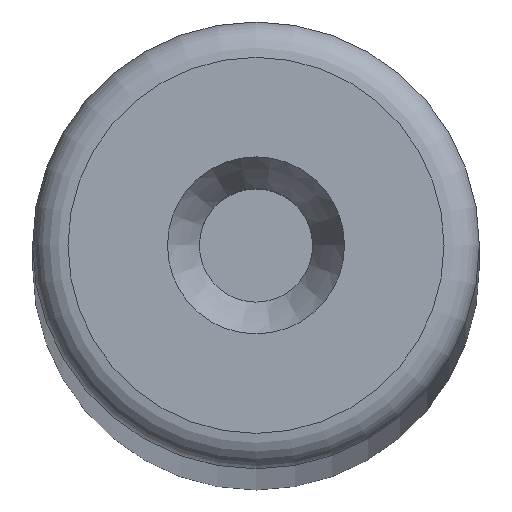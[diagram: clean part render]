
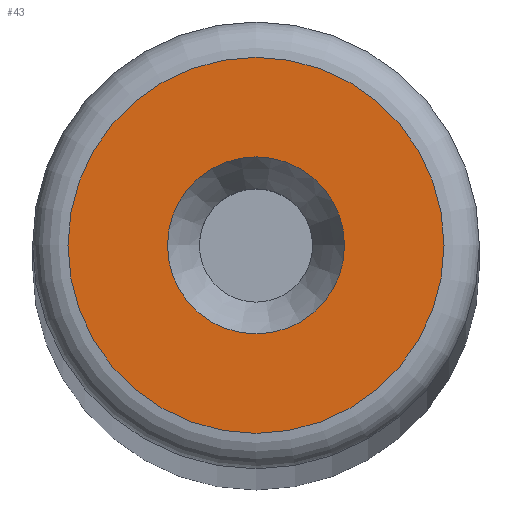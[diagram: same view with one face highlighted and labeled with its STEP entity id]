
A CAD part, top view. The second image highlights one B-rep face of the part: STEP entity #43.
In plain terms, the highlighted planar face has unit normal (0, 0, 1).
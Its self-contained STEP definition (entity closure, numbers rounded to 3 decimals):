
#43=ADVANCED_FACE('',(#58,#59),#54,.T.);
#54=PLANE('',#149);
#58=FACE_BOUND('',#76,.T.);
#59=FACE_BOUND('',#77,.T.);
#76=EDGE_LOOP('',(#96));
#77=EDGE_LOOP('',(#97));
#96=ORIENTED_EDGE('',*,*,#126,.T.);
#97=ORIENTED_EDGE('',*,*,#127,.F.);
#116=VERTEX_POINT('',#214);
#117=VERTEX_POINT('',#216);
#126=EDGE_CURVE('',#116,#116,#136,.T.);
#127=EDGE_CURVE('',#117,#117,#137,.T.);
#136=CIRCLE('',#147,2.655);
#137=CIRCLE('',#148,1.25);
#147=AXIS2_PLACEMENT_3D('',#213,#170,#171);
#148=AXIS2_PLACEMENT_3D('',#215,#172,#173);
#149=AXIS2_PLACEMENT_3D('',#217,#174,#175);
#170=DIRECTION('',(0.,0.,1.));
#171=DIRECTION('',(1.,0.,0.));
#172=DIRECTION('',(0.,0.,1.));
#173=DIRECTION('',(1.,0.,0.));
#174=DIRECTION('',(0.,0.,1.));
#175=DIRECTION('',(1.,0.,0.));
#213=CARTESIAN_POINT('',(0.,0.,172.));
#214=CARTESIAN_POINT('',(2.655,0.,172.));
#215=CARTESIAN_POINT('',(0.,0.,172.));
#216=CARTESIAN_POINT('',(1.25,0.,172.));
#217=CARTESIAN_POINT('',(0.,0.,172.));
